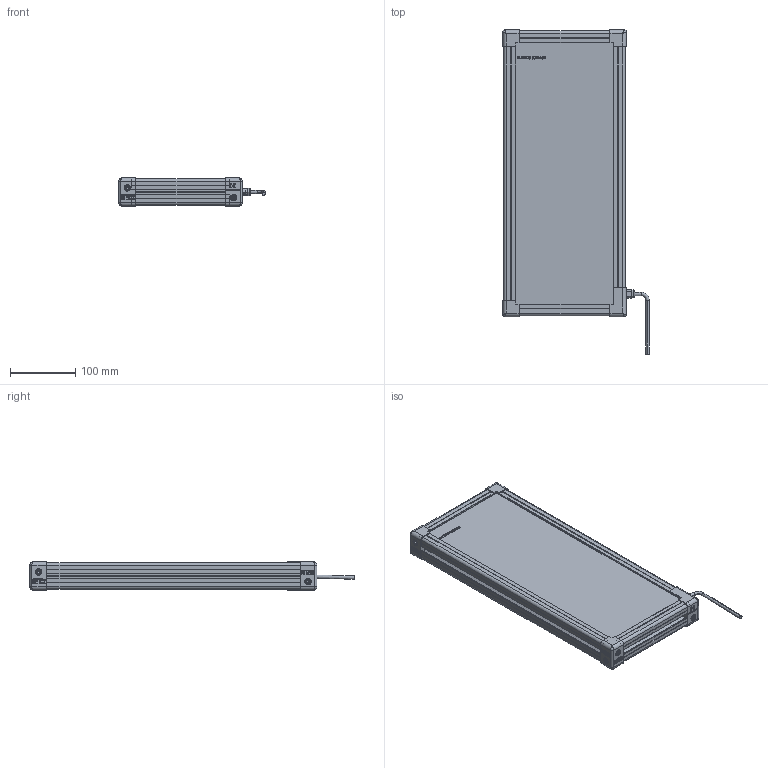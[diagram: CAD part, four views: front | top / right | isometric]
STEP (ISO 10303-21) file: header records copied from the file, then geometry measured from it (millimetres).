
FILE_DESCRIPTION (( 'STEP AP214' ), '1' );
FILE_NAME ('EFFI-BL-150-400-ZZZ 1x M12.STEP', '2021-06-18T09:26:16', ( '' ), ( '' ), 'SwSTEP 2.0', 'SolidWorks 2021', '' );
FILE_SCHEMA (( 'AUTOMOTIVE_DESIGN' ));
Length unit declared in the file: millimetre
Products named in the file (9): petite joue + vis; grande joue; profile Y_PERCE; profile X_PERCE; cordon_Avec cable; Pièce13^EFFI-BL-XXX-YYY-ZZZ -1M12; petite joue; 000629; EFFI-BL-150-400-ZZZ 1x M12
Assembly tree (15 placements, depth 3):
  EFFI-BL-150-400-ZZZ 1x M12
    profile X_PERCE  x2
    profile Y_PERCE  x2
    Pièce13^EFFI-BL-XXX-YYY-ZZZ -1M12
    petite joue + vis  x3
      petite joue
      000629
    000629  x2
    grande joue
    cordon_Avec cable
Bounding box: 224.15 x 496.14 x 43.2 mm (x, y, z)
Volume: 2857895.6 mm3; surface area: 360595 mm2
Topology: 17 solids, 23 shells, 3485 faces, 9341 edges, 6182 vertices
Faces by surface type: plane 2315, cylinder 592, bspline 552, cone 16, torus 10
Entity records: 67108 total; most frequent: CARTESIAN_POINT 27533, ORIENTED_EDGE 8416, DIRECTION 6619, EDGE_CURVE 4212, LINE 3319, VECTOR 3319, VERTEX_POINT 2799, EDGE_LOOP 1757
